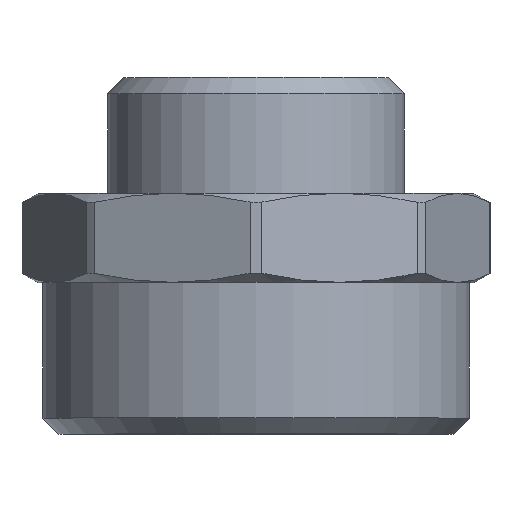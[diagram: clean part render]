
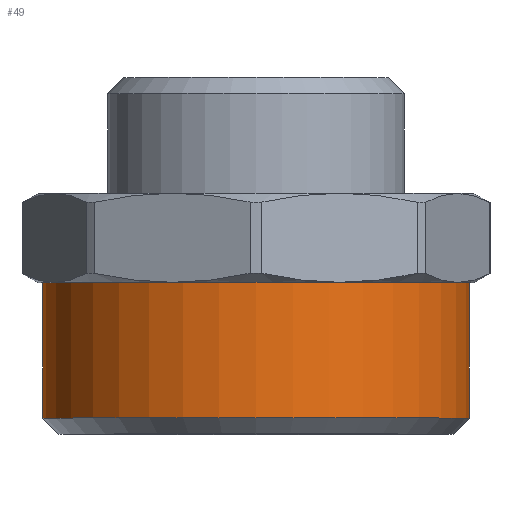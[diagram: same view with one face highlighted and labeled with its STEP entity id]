
A CAD part, top view. The second image highlights one B-rep face of the part: STEP entity #49.
In plain terms, the highlighted cylindrical face has radius 23.901 mm (diameter 47.803 mm), a full revolution.
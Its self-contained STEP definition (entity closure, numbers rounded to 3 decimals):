
#49=ADVANCED_FACE('',(#131,#133),#135,.T.);
#131=FACE_OUTER_BOUND('',#132,.T.);
#132=EDGE_LOOP('',(#418));
#133=FACE_OUTER_BOUND('',#134,.T.);
#134=EDGE_LOOP('',(#419));
#135=CYLINDRICAL_SURFACE('',#136,23.902);
#136=AXIS2_PLACEMENT_3D('',#137,#138,#139);
#137=CARTESIAN_POINT('',(0.,-5.,0.));
#138=DIRECTION('',(0.,-1.,0.));
#139=DIRECTION('',(1.,0.,0.));
#418=ORIENTED_EDGE('',*,*,#587,.T.);
#419=ORIENTED_EDGE('',*,*,#588,.F.);
#587=EDGE_CURVE('',#681,#681,#682,.T.);
#588=EDGE_CURVE('',#683,#683,#684,.T.);
#681=VERTEX_POINT('',#850);
#682=CIRCLE('',#851,23.902);
#683=VERTEX_POINT('',#855);
#684=CIRCLE('',#856,23.902);
#850=CARTESIAN_POINT('',(23.902,-5.,0.));
#851=AXIS2_PLACEMENT_3D('',#852,#853,#854);
#852=CARTESIAN_POINT('',(0.,-5.,0.));
#853=DIRECTION('',(0.,-1.,0.));
#854=DIRECTION('',(1.,0.,0.));
#855=CARTESIAN_POINT('',(23.902,-20.2,0.));
#856=AXIS2_PLACEMENT_3D('',#857,#858,#859);
#857=CARTESIAN_POINT('',(0.,-20.2,0.));
#858=DIRECTION('',(0.,-1.,0.));
#859=DIRECTION('',(1.,0.,0.));
